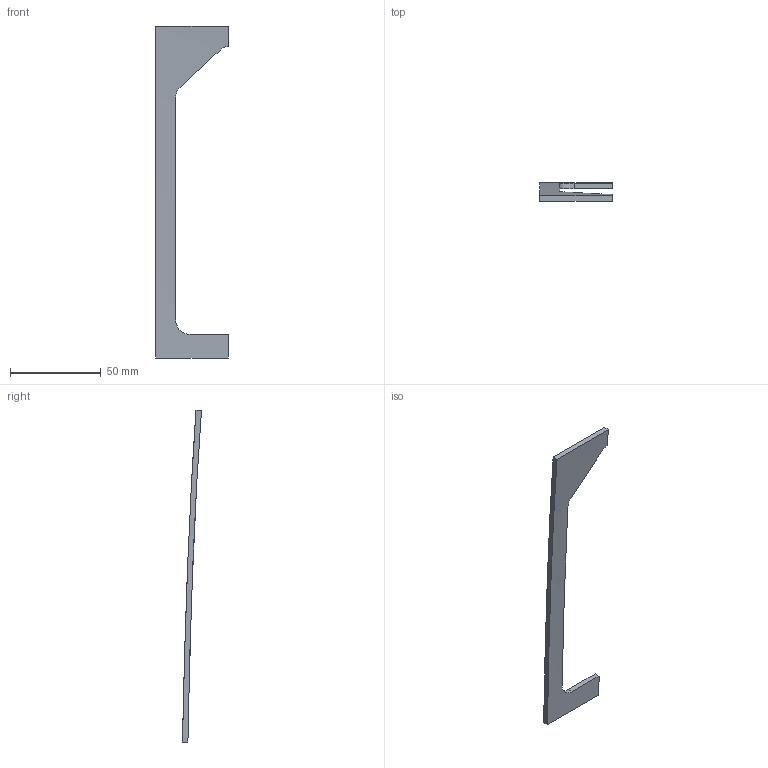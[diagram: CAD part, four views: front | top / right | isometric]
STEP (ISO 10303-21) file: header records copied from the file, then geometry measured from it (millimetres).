
FILE_DESCRIPTION(('Open CASCADE Model'),'2;1');
FILE_NAME('Open CASCADE Shape Model','2026-11-03T04:29:30',('Author'),( 'Open CASCADE'),'Open CASCADE STEP processor 7.8','Open CASCADE 7.8' ,'Unknown');
FILE_SCHEMA(('AUTOMOTIVE_DESIGN { 1 0 10303 214 1 1 1 1 }'));
Length unit declared in the file: millimetre
Products named in the file (1): Open CASCADE STEP translator 7.8 10
Bounding box: 40 x 10.49 x 183 mm (x, y, z)
Volume: 8968.4 mm3; surface area: 7551.6 mm2
Topology: 1 solids, 1 shells, 13 faces, 33 edges, 22 vertices
Faces by surface type: plane 8, cylinder 3, bspline 2
Entity records: 1509 total; most frequent: CARTESIAN_POINT 958, B_SPLINE_CURVE_WITH_KNOTS 67, ORIENTED_EDGE 66, PCURVE 66, DEFINITIONAL_REPRESENTATION 66, DIRECTION 56, EDGE_CURVE 33, SURFACE_CURVE 33
